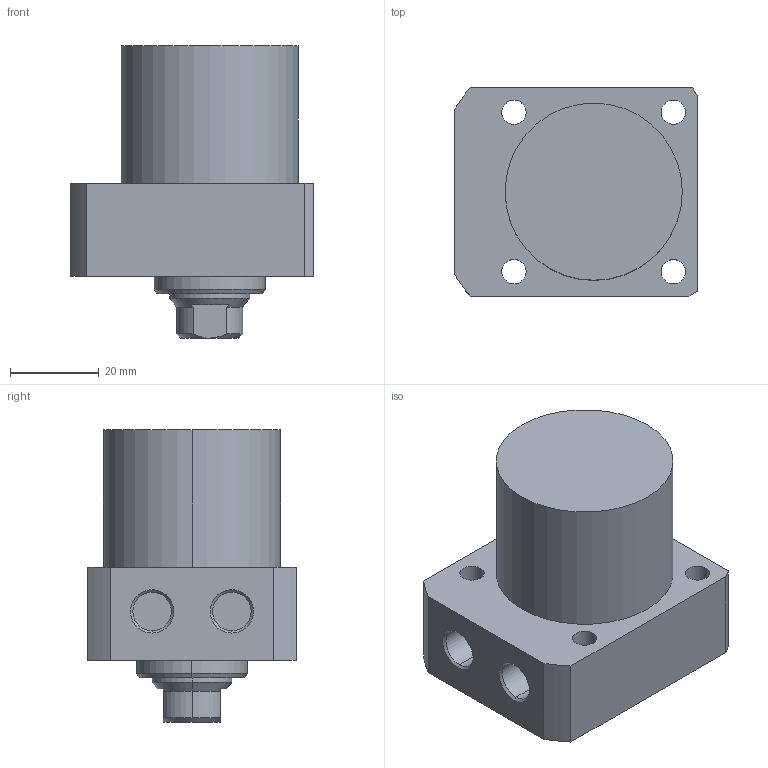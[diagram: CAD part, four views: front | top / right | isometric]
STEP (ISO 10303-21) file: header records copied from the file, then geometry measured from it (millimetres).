
FILE_DESCRIPTION (( 'STEP AP203' ), '1' );
FILE_NAME ('CLL-R040-CA-020.STEP', '2017-05-10T11:47:29', ( '' ), ( '' ), 'SwSTEP 2.0', 'SolidWorks 2015', '' );
FILE_SCHEMA (( 'CONFIG_CONTROL_DESIGN' ));
Length unit declared in the file: millimetre
Products named in the file (1): CLL-R040-CA-020
Bounding box: 55 x 47 x 66 mm (x, y, z)
Volume: 92020.1 mm3; surface area: 16359.6 mm2
Topology: 1 solids, 1 shells, 63 faces, 147 edges, 92 vertices
Faces by surface type: cylinder 29, plane 19, cone 15
Entity records: 1913 total; most frequent: DIRECTION 338, CARTESIAN_POINT 337, ORIENTED_EDGE 290, EDGE_CURVE 145, AXIS2_PLACEMENT_3D 137, VERTEX_POINT 92, EDGE_LOOP 79, CIRCLE 73
